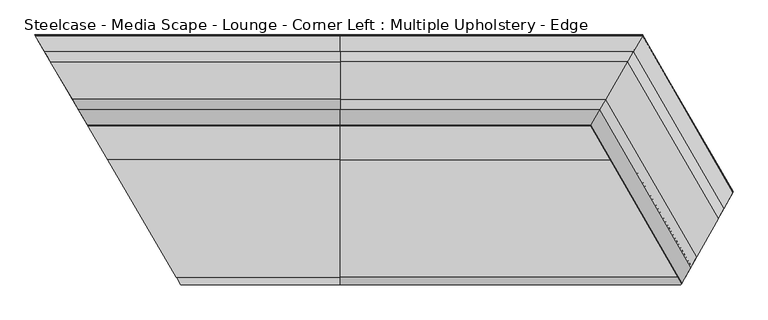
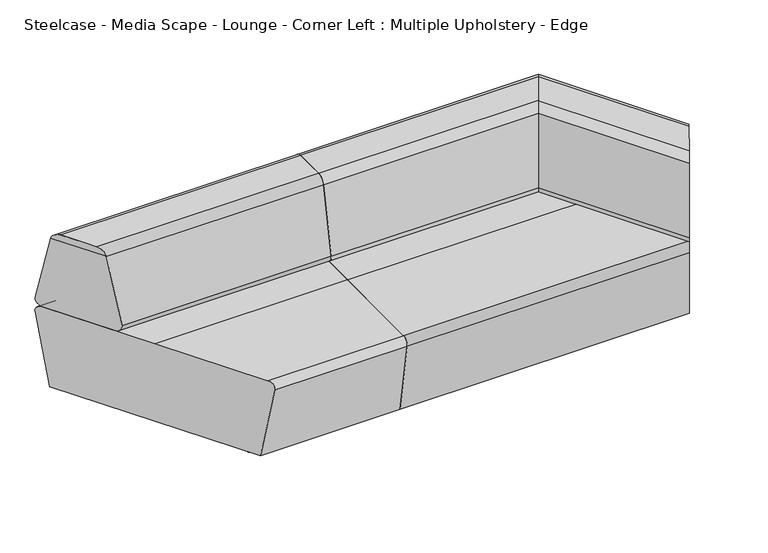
"""IFC4 building model written with IfcOpenShell, lengths in millimetres: furniture geometry, Steelcase - Media Scape - Lounge - Corner Left : Multiple Upholstery - Edge."""

from ifc_helpers import new_model, si_unit, point, frame, origin, place, context, project, spatial, polyline, circle_curve, ellipse_curve, trimmed, source, transform, mapped, element, save
from ifc_brep_helpers import plane_surface, cylinder_surface, revolved_surface, advanced_brep


def steelcase_media_scape_lounge_corner_left_multiple_upholstery_f64f1bea(model_context):
    return source(origin(), model_context, "Body", "AdvancedBrep", [
        advanced_brep(
        [(532.4537919, 744.8271599, 735.3711206), (532.4537919, 618.8595758, 735.3711206), (532.4537919, 585.4318912, 707.8962134), (532.4537919, 778.2548445, 707.8962134), (-454.5953087, 778.2548445, 707.8962134), (-435.0694828, 744.8271599, 735.3711206), (-341.9632954, 585.4318912, 707.8962134), (-361.4891213, 618.8595758, 735.3711206)],
        [
            (0, 1),
            (1, 2, circle_curve(frame((532.4537919, 618.8595758, 701.2985646), z_axis=(1.0, 0.0, 0.0), x_axis=(0.0, -1.0, 0.0)), 34.0725559)),
            (2, 3),
            (3, 0, circle_curve(frame((532.4537919, 744.8271599, 701.2985646), z_axis=(1.0, 0.0, 0.0), x_axis=(0.0, 1.0, 0.0)), 34.0725559)),
            (3, 4),
            (4, 5, ellipse_curve(frame((-435.0694828, 744.8271599, 701.2985646), z_axis=(0.8634825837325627, 0.5043786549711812, 0.0), x_axis=(-0.5043786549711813, 0.8634825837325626, 0.0)), 39.4594594, 34.0725559)),
            (5, 0),
            (2, 6),
            (6, 4),
            (1, 7),
            (7, 6, ellipse_curve(frame((-361.4891213, 618.8595758, 701.2985646), z_axis=(0.8634825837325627, 0.5043786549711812, 0.0), x_axis=(-0.5043786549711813, 0.8634825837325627, 0.0)), 39.4594594, 34.0725559)),
            (5, 7),
        ],
        [
            plane_surface(frame((532.4537919, 778.8997158, 701.2985646), z_axis=(1.0, 0.0, 0.0), x_axis=(0.0, 0.0, 1.0))),
            cylinder_surface(frame((532.4537919, 744.8271599, 701.2985646), z_axis=(-1.0, 0.0, 0.0), x_axis=(0.0, 1.0, 0.0)), 34.0725559),
            plane_surface(frame((-494.2685786, 778.2548445, 707.8962134), z_axis=(0.0, 0.0, -1.0), x_axis=(1.0, 0.0, 0.0))),
            cylinder_surface(frame((532.4537919, 618.8595758, 701.2985646), z_axis=(-1.0, 0.0, 0.0), x_axis=(0.0, -1.0, 0.0)), 34.0725559),
            plane_surface(frame((-494.2685786, 618.8595758, 735.3711206), z_axis=(0.0, 0.0, 1.0), x_axis=(1.0, 0.0, 0.0))),
            plane_surface(frame((43.2681632, -74.0739223, 831.6576803), z_axis=(-0.8634825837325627, -0.5043786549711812, 0.0), x_axis=(0.0, 0.0, -1.0))),
        ],
        [
            (0, [[1, 2, 3, 4]]),
            (1, [[-4, 5, 6, 7]]),
            (2, [[-3, 8, 9, -5]]),
            (3, [[-2, 10, 11, -8]]),
            (4, [[-1, -7, 12, -10]]),
            (5, [[-6, -9, -11, -12]]),
        ],
    ),
        advanced_brep(
        [(532.4537919, 744.8271599, 735.3711206), (532.4537919, 778.2548445, 707.8962134), (532.4537919, 585.4318912, 707.8962134), (532.4537919, 618.8595758, 735.3711206), (1418.7016149, 618.8595758, 735.3711206), (1491.4260266, 744.8271599, 735.3711206), (1399.4029301, 585.4318912, 707.8962134), (1510.7247114, 778.2548445, 707.8962134)],
        [
            (0, 1, circle_curve(frame((532.4537919, 744.8271599, 701.2985646), z_axis=(-1.0, 0.0, 0.0), x_axis=(0.0, 1.0, 0.0)), 34.0725559)),
            (1, 2),
            (2, 3, circle_curve(frame((532.4537919, 618.8595758, 701.2985646), z_axis=(-1.0, 0.0, 0.0), x_axis=(0.0, -1.0, 0.0)), 34.0725559)),
            (3, 0),
            (3, 4),
            (4, 5),
            (5, 0),
            (2, 6),
            (6, 4, ellipse_curve(frame((1418.7016149, 618.8595758, 701.2985646), z_axis=(-0.8660343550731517, 0.4999844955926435, 0.0), x_axis=(0.4999844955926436, 0.8660343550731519, 0.0)), 39.343192, 34.0725559)),
            (1, 7),
            (7, 6),
            (5, 7, ellipse_curve(frame((1491.4260266, 744.8271599, 701.2985646), z_axis=(-0.8660343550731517, 0.4999844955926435, 0.0), x_axis=(0.4999844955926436, 0.8660343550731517, 0.0)), 39.343192, 34.0725559)),
        ],
        [
            plane_surface(frame((532.4537919, 567.2050656, 735.3711206), z_axis=(-1.0, 0.0, 0.0), x_axis=(0.0, 1.0, 0.0))),
            plane_surface(frame((1559.1761623, 744.8271599, 735.3711206), z_axis=(0.0, 0.0, 1.0), x_axis=(-1.0, 0.0, 0.0))),
            cylinder_surface(frame((532.4537919, 618.8595758, 701.2985646), z_axis=(1.0, 0.0, 0.0), x_axis=(0.0, -1.0, 0.0)), 34.0725559),
            plane_surface(frame((1559.1761623, 585.4318912, 707.8962134), z_axis=(0.0, 0.0, -1.0), x_axis=(-1.0, 0.0, 0.0))),
            cylinder_surface(frame((532.4537919, 744.8271599, 701.2985646), z_axis=(1.0, 0.0, 0.0), x_axis=(0.0, 1.0, 0.0)), 34.0725559),
            plane_surface(frame((1578.9048197, 896.3511388, 783.4745435), z_axis=(0.8660343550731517, -0.4999844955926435, 0.0), x_axis=(0.0, 0.0, -1.0))),
        ],
        [
            (0, [[1, 2, 3, 4]]),
            (1, [[-4, 5, 6, 7]]),
            (2, [[-3, 8, 9, -5]]),
            (3, [[-2, 10, 11, -8]]),
            (4, [[-1, -7, 12, -10]]),
            (5, [[-6, -9, -11, -12]]),
        ],
    ),
        advanced_brep(
        [(532.4537919, 744.618392, 735.1171206), (532.4537919, 778.0460766, 707.6422134), (532.4537919, 831.9045354, 434.7626426), (532.4537919, 806.9852663, 404.4443065), (532.4537919, 556.7014693, 404.4443065), (532.4537919, 531.7822003, 434.7626426), (532.4537919, 585.640659, 707.6422134), (532.4537919, 619.0683436, 735.1171206), (1418.8221421, 619.0683436, 735.1171206), (1491.3054994, 744.618392, 735.1171206), (1399.5234573, 585.640659, 707.6422134), (1368.4295472, 531.7822003, 434.7626426), (1382.8160991, 556.7014693, 404.4443065), (1527.3115423, 806.9852663, 404.4443065), (1541.6980942, 831.9045354, 434.7626426), (1510.6041842, 778.0460766, 707.6422134)],
        [
            (0, 1, circle_curve(frame((532.4537919, 744.618392, 701.0445646), z_axis=(-1.0, 0.0, 0.0), x_axis=(0.0, 1.0, 0.0)), 34.0725559)),
            (1, 2),
            (2, 3, circle_curve(frame((532.4537919, 806.9852663, 429.8443065), z_axis=(-1.0, 0.0, 0.0), x_axis=(0.0, 1.0, 0.0)), 25.4)),
            (3, 4),
            (4, 5, circle_curve(frame((532.4537919, 556.7014693, 429.8443065), z_axis=(-1.0, 0.0, 0.0), x_axis=(0.0, -1.0, 0.0)), 25.4)),
            (5, 6),
            (6, 7, circle_curve(frame((532.4537919, 619.0683436, 701.0445646), z_axis=(-1.0, 0.0, 0.0), x_axis=(0.0, -1.0, 0.0)), 34.0725559)),
            (7, 0),
            (7, 8),
            (8, 9),
            (9, 0),
            (6, 10),
            (10, 8, ellipse_curve(frame((1418.8221421, 619.0683436, 701.0445646), z_axis=(-0.8660343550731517, 0.4999844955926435, 0.0), x_axis=(0.4999844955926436, 0.8660343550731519, 0.0)), 39.343192, 34.0725559)),
            (5, 11),
            (11, 10),
            (4, 12),
            (12, 11, ellipse_curve(frame((1382.8160991, 556.7014693, 429.8443065), z_axis=(-0.8660343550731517, 0.4999844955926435, 0.0), x_axis=(0.4999844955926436, 0.8660343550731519, 0.0)), 29.3290905, 25.4)),
            (3, 13),
            (13, 12),
            (2, 14),
            (14, 13, ellipse_curve(frame((1527.3115423, 806.9852663, 429.8443065), z_axis=(-0.8660343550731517, 0.4999844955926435, 0.0), x_axis=(0.4999844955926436, 0.8660343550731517, 0.0)), 29.3290905, 25.4)),
            (1, 15),
            (15, 14),
            (9, 15, ellipse_curve(frame((1491.3054994, 744.618392, 701.0445646), z_axis=(-0.8660343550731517, 0.4999844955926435, 0.0), x_axis=(0.4999844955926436, 0.8660343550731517, 0.0)), 39.343192, 34.0725559)),
        ],
        [
            plane_surface(frame((532.4537919, 567.2050656, 735.1171206), z_axis=(-1.0, 0.0, 0.0), x_axis=(0.0, 1.0, 0.0))),
            plane_surface(frame((1559.1761623, 744.618392, 735.1171206), z_axis=(0.0, 0.0, 1.0), x_axis=(-1.0, 0.0, 0.0))),
            cylinder_surface(frame((532.4537919, 619.0683436, 701.0445646), z_axis=(1.0, 0.0, 0.0), x_axis=(0.0, -1.0, 0.0)), 34.0725559),
            plane_surface(frame((1559.1761623, 585.640659, 707.6422134), z_axis=(0.0, -0.9810735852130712, 0.19363527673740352), x_axis=(-1.0, 0.0, 0.0))),
            cylinder_surface(frame((532.4537919, 556.7014693, 429.8443065), z_axis=(1.0, 0.0, 0.0), x_axis=(0.0, -1.0, 0.0)), 25.4),
            plane_surface(frame((1559.1761623, 556.7014693, 404.4443065), z_axis=(0.0, 0.0, -1.0), x_axis=(-1.0, 0.0, 0.0))),
            cylinder_surface(frame((532.4537919, 806.9852663, 429.8443065), z_axis=(1.0, 0.0, 0.0), x_axis=(0.0, 1.0, 0.0)), 25.4),
            plane_surface(frame((1559.1761623, 831.9045354, 434.7626426), z_axis=(0.0, 0.9810735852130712, 0.19363527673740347), x_axis=(-1.0, 0.0, 0.0))),
            cylinder_surface(frame((532.4537919, 744.618392, 701.0445646), z_axis=(1.0, 0.0, 0.0), x_axis=(0.0, 1.0, 0.0)), 34.0725559),
            plane_surface(frame((1578.9048197, 896.3511388, 783.4745435), z_axis=(0.8660343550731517, -0.4999844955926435, 0.0), x_axis=(0.0, 0.0, -1.0))),
        ],
        [
            (0, [[1, 2, 3, 4, 5, 6, 7, 8]]),
            (1, [[-8, 9, 10, 11]]),
            (2, [[-7, 12, 13, -9]]),
            (3, [[-6, 14, 15, -12]]),
            (4, [[-5, 16, 17, -14]]),
            (5, [[-4, 18, 19, -16]]),
            (6, [[-3, 20, 21, -18]]),
            (7, [[-2, 22, 23, -20]]),
            (8, [[-1, -11, 24, -22]]),
            (9, [[-10, -13, -15, -17, -19, -21, -23, -24]]),
        ],
    ),
        advanced_brep(
        [(1491.4185476, 744.8142053, 735.3711206), (1418.6659522, 618.7978036, 735.3711206), (1722.1024862, 92.4589595, 735.3711206), (1793.9105179, 220.1137947, 735.3711206), (1399.3597883, 585.3571644, 707.8962134), (1703.0469788, 58.5835335, 707.8962134), (1510.7247114, 778.2548445, 707.8962134), (1812.9660253, 253.9892207, 707.8962134)],
        [
            (0, 1),
            (1, 2),
            (2, 3),
            (3, 0),
            (1, 4, ellipse_curve(frame((1418.6659522, 618.7978036, 701.2985646), z_axis=(0.8660343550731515, -0.499984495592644, 0.0), x_axis=(-0.49998449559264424, -0.8660343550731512, 0.0)), 39.3584391, 34.0725559)),
            (4, 5),
            (5, 2, ellipse_curve(frame((1722.1024862, 92.4589595, 701.2985646), z_axis=(-0.8715691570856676, 0.4902725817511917, 0.0), x_axis=(-0.4902725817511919, -0.8715691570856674, 0.0)), 39.6169766, 34.0725559)),
            (4, 6),
            (6, 7),
            (7, 5),
            (6, 0, ellipse_curve(frame((1491.4185476, 744.8142053, 701.2985646), z_axis=(0.8660343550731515, -0.499984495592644, 0.0), x_axis=(-0.4999844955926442, -0.8660343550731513, 0.0)), 39.3584391, 34.0725559)),
            (3, 7, ellipse_curve(frame((1793.9105179, 220.1137947, 701.2985646), z_axis=(-0.8715691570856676, 0.4902725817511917, 0.0), x_axis=(-0.49027258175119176, -0.8715691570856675, 0.0)), 39.6169766, 34.0725559)),
        ],
        [
            plane_surface(frame((1868.1598018, 91.3215174, 735.3711206), z_axis=(0.0, 0.0, 1.0000000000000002), x_axis=(-0.4994501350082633, 0.866342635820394, 0.0))),
            cylinder_surface(frame((1327.7035763, 776.5804908, 701.2985646), z_axis=(0.4994501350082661, -0.8663426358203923, 0.0), x_axis=(-0.8663426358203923, -0.4994501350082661, 0.0)), 34.0725559),
            plane_surface(frame((1730.0688845, 11.7115289, 707.8962134), z_axis=(0.0, 0.0, -1.0000000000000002), x_axis=(-0.4994501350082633, 0.866342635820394, 0.0))),
            cylinder_surface(frame((1436.8346652, 839.4950177, 701.2985646), z_axis=(0.49945013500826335, -0.8663426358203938, 0.0), x_axis=(0.8663426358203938, 0.49945013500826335, 0.0)), 34.0725559),
            plane_surface(frame((1312.2130898, 434.4084138, 783.4745435), z_axis=(-0.8660343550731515, 0.499984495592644, 0.0), x_axis=(0.0, 0.0, -1.0))),
            plane_surface(frame((1844.1308819, 309.391723, 975.8102777), z_axis=(0.8715691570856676, -0.4902725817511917, 0.0), x_axis=(0.0, 0.0, -1.0))),
        ],
        [
            (0, [[1, 2, 3, 4]]),
            (1, [[5, 6, 7, -2]]),
            (2, [[8, 9, 10, -6]]),
            (3, [[11, -4, 12, -9]]),
            (4, [[-1, -11, -8, -5]]),
            (5, [[-3, -7, -10, -12]]),
        ],
    ),
        advanced_brep(
        [(1722.2214947, 92.6705237, 735.1171206), (1793.7915094, 219.9022306, 735.1171206), (1491.2979737, 744.6053565, 735.1171206), (1418.7865261, 619.0066524, 735.1171206), (1703.1659873, 58.7950977, 707.6422134), (1399.4803623, 585.5660131, 707.6422134), (1672.4638829, 4.2152411, 434.7626426), (1368.3744021, 531.686682, 434.7626426), (1686.6691539, 29.468287, 404.4443065), (1382.7665293, 556.6156083, 404.4443065), (1829.3438503, 283.1044672, 404.4443065), (1527.3179704, 806.9964005, 404.4443065), (1843.5491212, 308.3575131, 434.7626426), (1541.7100977, 831.9253268, 434.7626426), (1812.8470169, 253.7776565, 707.6422134), (1510.6041375, 778.0459957, 707.6422134)],
        [
            (0, 1),
            (1, 2),
            (2, 3),
            (3, 0),
            (4, 0, ellipse_curve(frame((1722.2214947, 92.6705237, 701.0445646), z_axis=(-0.8715691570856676, 0.4902725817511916, 0.0), x_axis=(-0.4902725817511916, -0.8715691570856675, 0.0)), 39.6169766, 34.0725559)),
            (3, 5, ellipse_curve(frame((1418.7865261, 619.0066524, 701.0445646), z_axis=(0.8660343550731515, -0.499984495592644, 0.0), x_axis=(-0.49998449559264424, -0.8660343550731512, 0.0)), 39.3584391, 34.0725559)),
            (5, 4),
            (6, 4),
            (5, 7),
            (7, 6),
            (8, 6, ellipse_curve(frame((1686.6691539, 29.468287, 429.8443065), z_axis=(-0.8715691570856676, 0.4902725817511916, 0.0), x_axis=(-0.4902725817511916, -0.8715691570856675, 0.0)), 29.5331882, 25.4)),
            (7, 9, ellipse_curve(frame((1382.7665293, 556.6156083, 429.8443065), z_axis=(0.8660343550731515, -0.499984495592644, 0.0), x_axis=(-0.49998449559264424, -0.8660343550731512, 0.0)), 29.3404568, 25.4)),
            (9, 8),
            (10, 8),
            (9, 11),
            (11, 10),
            (12, 10, ellipse_curve(frame((1829.3438503, 283.1044672, 429.8443065), z_axis=(-0.8715691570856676, 0.4902725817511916, 0.0), x_axis=(-0.49027258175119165, -0.8715691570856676, 0.0)), 29.5331882, 25.4)),
            (11, 13, ellipse_curve(frame((1527.3179704, 806.9964005, 429.8443065), z_axis=(0.8660343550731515, -0.499984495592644, 0.0), x_axis=(-0.4999844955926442, -0.8660343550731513, 0.0)), 29.3404568, 25.4)),
            (13, 12),
            (14, 12),
            (13, 15),
            (15, 14),
            (1, 14, ellipse_curve(frame((1793.7915094, 219.9022306, 701.0445646), z_axis=(-0.8715691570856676, 0.4902725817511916, 0.0), x_axis=(-0.49027258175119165, -0.8715691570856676, 0.0)), 39.6169766, 34.0725559)),
            (15, 2, ellipse_curve(frame((1491.2979737, 744.6053565, 701.0445646), z_axis=(0.8660343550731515, -0.499984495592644, 0.0), x_axis=(-0.4999844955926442, -0.8660343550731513, 0.0)), 39.3584391, 34.0725559)),
        ],
        [
            plane_surface(frame((1867.9789373, 91.2172483, 735.1171206), z_axis=(0.0, 0.0, 1.0), x_axis=(-0.4994501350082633, 0.8663426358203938, 0.0))),
            cylinder_surface(frame((1327.8844408, 776.6847599, 701.0445646), z_axis=(0.4994501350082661, -0.8663426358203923, 0.0), x_axis=(-0.8663426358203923, -0.4994501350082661, 0.0)), 34.0725559),
            plane_surface(frame((1730.249749, 11.815798, 707.6422134), z_axis=(-0.849945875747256, -0.4899973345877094, 0.19363527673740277), x_axis=(-0.4994501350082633, 0.8663426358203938, 0.0))),
            cylinder_surface(frame((1273.8533586, 745.5356162, 429.8443065), z_axis=(0.4994501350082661, -0.8663426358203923, 0.0), x_axis=(-0.8663426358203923, -0.4994501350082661, 0.0)), 25.4),
            plane_surface(frame((1705.1784952, -2.6378841, 404.4443065), z_axis=(0.0, 0.0, -1.0000000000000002), x_axis=(-0.4994501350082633, 0.866342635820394, 0.0))),
            cylinder_surface(frame((1490.6848829, 870.5398923, 429.8443065), z_axis=(0.49945013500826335, -0.8663426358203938, 0.0), x_axis=(0.8663426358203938, 0.49945013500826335, 0.0)), 25.4),
            plane_surface(frame((1943.5986448, 134.8123243, 434.7626426), z_axis=(0.8499458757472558, 0.48999733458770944, 0.193635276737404), x_axis=(-0.49945013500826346, 0.8663426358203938, 0.0))),
            cylinder_surface(frame((1436.6538007, 839.3907486, 701.0445646), z_axis=(0.49945013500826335, -0.8663426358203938, 0.0), x_axis=(0.8663426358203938, 0.49945013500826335, 0.0)), 34.0725559),
            plane_surface(frame((1844.1308819, 309.391723, 783.4745435), z_axis=(0.8715691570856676, -0.4902725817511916, 0.0), x_axis=(0.0, 0.0, -1.0))),
            plane_surface(frame((1312.2130898, 434.4084138, 783.4745435), z_axis=(-0.8660343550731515, 0.499984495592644, 0.0), x_axis=(0.0, 0.0, -1.0))),
        ],
        [
            (0, [[1, 2, 3, 4]]),
            (1, [[5, -4, 6, 7]]),
            (2, [[8, -7, 9, 10]]),
            (3, [[11, -10, 12, 13]]),
            (4, [[14, -13, 15, 16]]),
            (5, [[17, -16, 18, 19]]),
            (6, [[20, -19, 21, 22]]),
            (7, [[23, -22, 24, -2]]),
            (8, [[-1, -5, -8, -11, -14, -17, -20, -23]]),
            (9, [[-3, -24, -21, -18, -15, -12, -9, -6]]),
        ],
    ),
        advanced_brep(
        [(532.4537919, 416.9525328, 404.4443065), (532.4537919, 808.4584998, 404.4443065), (532.4537919, 833.4999769, 374.7917281), (532.4537919, 782.5280351, 74.6414242), (532.4537919, 416.9525328, 74.6414242), (532.4537919, 51.3770305, 74.6414242), (532.4537919, 0.4050887, 374.7917281), (532.4537919, 25.4465658, 404.4443065), (1782.1216274, 416.9525328, 404.4443065), (1556.4168081, 808.4584998, 404.4443065), (1541.9802923, 833.4999769, 374.7917281), (1571.3658289, 782.5280351, 74.6414242), (1782.1216274, 416.9525328, 74.6414242), (1844.1308819, 309.391723, 74.6414242), (1698.9931974, 51.3770305, 74.6414242), (1670.3206069, 0.4050887, 374.7917281), (1684.4068668, 25.4465658, 404.4443065), (1844.1308819, 309.391723, 404.4443065)],
        [
            (0, 1),
            (1, 2, circle_curve(frame((532.4537919, 808.4584998, 379.0443065), z_axis=(-1.0, 0.0, 0.0), x_axis=(0.0, 1.0, 0.0)), 25.4)),
            (2, 3),
            (3, 4),
            (4, 5),
            (5, 6),
            (6, 7, circle_curve(frame((532.4537919, 25.4465658, 379.0443065), z_axis=(-1.0, 0.0, 0.0), x_axis=(0.0, -1.0, 0.0)), 25.4)),
            (7, 0),
            (0, 8),
            (8, 9),
            (9, 1),
            (9, 10, ellipse_curve(frame((1556.4168081, 808.4584998, 379.0443065), z_axis=(-0.8663426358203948, -0.4994501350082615, 0.0), x_axis=(-0.4994501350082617, 0.866342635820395, 0.0)), 29.318654, 25.4)),
            (10, 2),
            (10, 11),
            (11, 3),
            (11, 12),
            (12, 4),
            (12, 13),
            (13, 14),
            (14, 5),
            (14, 15),
            (15, 6),
            (15, 16, ellipse_curve(frame((1684.4068668, 25.4465658, 379.0443065), z_axis=(-0.8715691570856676, 0.4902725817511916, 0.0), x_axis=(-0.4902725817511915, -0.8715691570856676, 0.0)), 29.1428394, 25.4)),
            (16, 7),
            (16, 17),
            (17, 8),
            (13, 17),
        ],
        [
            plane_surface(frame((532.4537919, 891.4773142, 404.4443065), z_axis=(-1.0, 0.0, 0.0), x_axis=(0.0, 1.0, 0.0))),
            plane_surface(frame((532.4537919, 416.9525328, 404.4443065), z_axis=(0.0, 0.0, 1.0), x_axis=(1.0, 0.0, 0.0))),
            cylinder_surface(frame((1864.4893496, 808.4584998, 379.0443065), z_axis=(-1.0, 0.0, 0.0), x_axis=(0.0, 1.0, 0.0)), 25.4),
            plane_surface(frame((532.4537919, 833.4999769, 374.7917281), z_axis=(0.0, 0.9858849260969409, -0.1674243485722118), x_axis=(1.0, 0.0, 0.0))),
            plane_surface(frame((532.4537919, 782.5280351, 74.6414242), z_axis=(0.0, 0.0, -1.0), x_axis=(1.0, 0.0, 0.0))),
            plane_surface(frame((532.4537919, 416.9525328, 74.6414242), z_axis=(0.0, 0.0, -1.0), x_axis=(1.0, 0.0, 0.0))),
            plane_surface(frame((532.4537919, 51.3770305, 74.6414242), z_axis=(0.0, -0.9858849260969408, -0.16742434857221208), x_axis=(1.0, 0.0, 0.0))),
            cylinder_surface(frame((1864.4893496, 25.4465658, 379.0443065), z_axis=(-1.0, 0.0, 0.0), x_axis=(0.0, -1.0, 0.0)), 25.4),
            plane_surface(frame((532.4537919, 25.4465658, 404.4443065), z_axis=(0.0, 0.0, 1.0), x_axis=(1.0, 0.0, 0.0))),
            plane_surface(frame((1844.1308819, 309.391723, 783.4745435), z_axis=(0.8715691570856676, -0.4902725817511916, 0.0), x_axis=(0.0, 0.0, -1.0))),
            plane_surface(frame((1512.8100786, 884.0984212, 783.4745435), z_axis=(0.8663426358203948, 0.4994501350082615, 0.0), x_axis=(0.0, 0.0, -1.0))),
        ],
        [
            (0, [[1, 2, 3, 4, 5, 6, 7, 8]]),
            (1, [[-1, 9, 10, 11]]),
            (2, [[-2, -11, 12, 13]]),
            (3, [[-3, -13, 14, 15]]),
            (4, [[-4, -15, 16, 17]]),
            (5, [[-5, -17, 18, 19, 20]]),
            (6, [[-6, -20, 21, 22]]),
            (7, [[-7, -22, 23, 24]]),
            (8, [[-8, -24, 25, 26, -9]]),
            (9, [[27, -25, -23, -21, -19]]),
            (10, [[-27, -18, -16, -14, -12, -10, -26]]),
        ],
    ),
        advanced_brep(
        [(532.4537919, 744.618392, 735.1171206), (532.4537919, 619.0683436, 735.1171206), (532.4537919, 585.640659, 707.6422134), (532.4537919, 531.7822003, 434.7626426), (532.4537919, 556.7014693, 404.4443065), (532.4537919, 806.9852663, 404.4443065), (532.4537919, 831.9045354, 434.7626426), (532.4537919, 778.0460766, 707.6422134), (-454.4733629, 778.0460766, 707.6422134), (-434.947537, 744.618392, 735.1171206), (-485.9332412, 831.9045354, 434.7626426), (-471.3773629, 806.9852663, 404.4443065), (-325.1812412, 556.7014693, 404.4443065), (-310.6253629, 531.7822003, 434.7626426), (-342.0852412, 585.640659, 707.6422134), (-361.6110671, 619.0683436, 735.1171206)],
        [
            (0, 1),
            (1, 2, circle_curve(frame((532.4537919, 619.0683436, 701.0445646), z_axis=(1.0, 0.0, 0.0), x_axis=(0.0, -1.0, 0.0)), 34.0725559)),
            (2, 3),
            (3, 4, circle_curve(frame((532.4537919, 556.7014693, 429.8443065), z_axis=(1.0, 0.0, 0.0), x_axis=(0.0, -1.0, 0.0)), 25.4)),
            (4, 5),
            (5, 6, circle_curve(frame((532.4537919, 806.9852663, 429.8443065), z_axis=(1.0, 0.0, 0.0), x_axis=(0.0, 1.0, 0.0)), 25.4)),
            (6, 7),
            (7, 0, circle_curve(frame((532.4537919, 744.618392, 701.0445646), z_axis=(1.0, 0.0, 0.0), x_axis=(0.0, 1.0, 0.0)), 34.0725559)),
            (7, 8),
            (8, 9, ellipse_curve(frame((-434.947537, 744.618392, 701.0445646), z_axis=(0.8634825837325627, 0.5043786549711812, 0.0), x_axis=(-0.5043786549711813, 0.8634825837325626, 0.0)), 39.4594594, 34.0725559)),
            (9, 0),
            (6, 10),
            (10, 8),
            (5, 11),
            (11, 10, ellipse_curve(frame((-471.3773629, 806.9852663, 429.8443065), z_axis=(0.8634825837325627, 0.5043786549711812, 0.0), x_axis=(-0.5043786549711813, 0.8634825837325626, 0.0)), 29.4157641, 25.4)),
            (4, 12),
            (12, 11),
            (3, 13),
            (13, 12, ellipse_curve(frame((-325.1812412, 556.7014693, 429.8443065), z_axis=(0.8634825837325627, 0.5043786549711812, 0.0), x_axis=(-0.5043786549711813, 0.8634825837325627, 0.0)), 29.4157641, 25.4)),
            (2, 14),
            (14, 13),
            (1, 15),
            (15, 14, ellipse_curve(frame((-361.6110671, 619.0683436, 701.0445646), z_axis=(0.8634825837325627, 0.5043786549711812, 0.0), x_axis=(-0.5043786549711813, 0.8634825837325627, 0.0)), 39.4594594, 34.0725559)),
            (9, 15),
        ],
        [
            plane_surface(frame((532.4537919, 778.690948, 701.0445646), z_axis=(1.0, 0.0, 0.0), x_axis=(0.0, 0.0, 1.0))),
            cylinder_surface(frame((532.4537919, 744.618392, 701.0445646), z_axis=(-1.0, 0.0, 0.0), x_axis=(0.0, 1.0, 0.0)), 34.0725559),
            plane_surface(frame((-494.2685786, 778.0460766, 707.6422134), z_axis=(0.0, 0.9810735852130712, 0.19363527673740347), x_axis=(1.0, 0.0, 0.0))),
            cylinder_surface(frame((532.4537919, 806.9852663, 429.8443065), z_axis=(-1.0, 0.0, 0.0), x_axis=(0.0, 1.0, 0.0)), 25.4),
            plane_surface(frame((-494.2685786, 806.9852663, 404.4443065), z_axis=(0.0, 0.0, -1.0), x_axis=(1.0, 0.0, 0.0))),
            cylinder_surface(frame((532.4537919, 556.7014693, 429.8443065), z_axis=(-1.0, 0.0, 0.0), x_axis=(0.0, -1.0, 0.0)), 25.4),
            plane_surface(frame((-494.2685786, 531.7822003, 434.7626426), z_axis=(0.0, -0.9810735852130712, 0.19363527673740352), x_axis=(1.0, 0.0, 0.0))),
            cylinder_surface(frame((532.4537919, 619.0683436, 701.0445646), z_axis=(-1.0, 0.0, 0.0), x_axis=(0.0, -1.0, 0.0)), 34.0725559),
            plane_surface(frame((-494.2685786, 619.0683436, 735.1171206), z_axis=(0.0, 0.0, 1.0), x_axis=(1.0, 0.0, 0.0))),
            plane_surface(frame((43.2681632, -74.0739223, 775.7777302), z_axis=(-0.8634825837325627, -0.5043786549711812, 0.0), x_axis=(0.0, 0.0, -1.0))),
        ],
        [
            (0, [[1, 2, 3, 4, 5, 6, 7, 8]]),
            (1, [[-8, 9, 10, 11]]),
            (2, [[-7, 12, 13, -9]]),
            (3, [[-6, 14, 15, -12]]),
            (4, [[-5, 16, 17, -14]]),
            (5, [[-4, 18, 19, -16]]),
            (6, [[-3, 20, 21, -18]]),
            (7, [[-2, 22, 23, -20]]),
            (8, [[-1, -11, 24, -22]]),
            (9, [[-10, -13, -15, -17, -19, -21, -23, -24]]),
        ],
    ),
        advanced_brep(
        [(532.4537919, 416.9525328, 404.4443065), (532.4537919, 25.4465658, 404.4443065), (532.4537919, 0.4050887, 374.7917281), (532.4537919, 51.3770305, 74.6414242), (532.4537919, 416.9525328, 74.6414242), (532.4537919, 782.5280351, 74.6414242), (532.4537919, 833.4999769, 374.7917281), (532.4537919, 808.4584998, 404.4443065), (-243.5508969, 416.9525328, 404.4443065), (-14.8638836, 25.4465658, 404.4443065), (-0.236621, 0.4050887, 374.7917281), (-30.0104229, 51.3770305, 74.6414242), (-243.5508969, 416.9525328, 74.6414242), (-457.0913708, 782.5280351, 74.6414242), (-486.8651727, 833.4999769, 374.7917281), (-472.2379101, 808.4584998, 404.4443065)],
        [
            (0, 1),
            (1, 2, circle_curve(frame((532.4537919, 25.4465658, 379.0443065), z_axis=(1.0, 0.0, 0.0), x_axis=(0.0, -1.0, 0.0)), 25.4)),
            (2, 3),
            (3, 4),
            (4, 5),
            (5, 6),
            (6, 7, circle_curve(frame((532.4537919, 808.4584998, 379.0443065), z_axis=(1.0, 0.0, 0.0), x_axis=(0.0, 1.0, 0.0)), 25.4)),
            (7, 0),
            (0, 8),
            (8, 9),
            (9, 1),
            (9, 10, ellipse_curve(frame((-14.8638836, 25.4465658, 379.0443065), z_axis=(0.8634825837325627, 0.5043786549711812, 0.0), x_axis=(0.5043786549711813, -0.8634825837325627, 0.0)), 29.4157641, 25.4)),
            (10, 2),
            (10, 11),
            (11, 3),
            (11, 12),
            (12, 4),
            (12, 13),
            (13, 5),
            (13, 14),
            (14, 6),
            (14, 15, ellipse_curve(frame((-472.2379101, 808.4584998, 379.0443065), z_axis=(0.8634825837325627, 0.5043786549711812, 0.0), x_axis=(0.5043786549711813, -0.8634825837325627, 0.0)), 29.4157641, 25.4)),
            (15, 7),
            (15, 8),
        ],
        [
            plane_surface(frame((532.4537919, -57.5722485, 404.4443065), z_axis=(1.0, 0.0, 0.0), x_axis=(0.0, -1.0, 0.0))),
            plane_surface(frame((532.4537919, 416.9525328, 404.4443065), z_axis=(0.0, 0.0, 1.0), x_axis=(-1.0, 0.0, 0.0))),
            cylinder_surface(frame((-497.7585178, 25.4465658, 379.0443065), z_axis=(1.0, 0.0, 0.0), x_axis=(0.0, -1.0, 0.0)), 25.4),
            plane_surface(frame((532.4537919, 0.4050887, 374.7917281), z_axis=(0.0, -0.9858849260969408, -0.16742434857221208), x_axis=(-1.0, 0.0, 0.0))),
            plane_surface(frame((532.4537919, 51.3770305, 74.6414242), z_axis=(0.0, 0.0, -1.0), x_axis=(-1.0, 0.0, 0.0))),
            plane_surface(frame((532.4537919, 416.9525328, 74.6414242), z_axis=(0.0, 0.0, -1.0), x_axis=(-1.0, 0.0, 0.0))),
            plane_surface(frame((532.4537919, 782.5280351, 74.6414242), z_axis=(0.0, 0.9858849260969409, -0.1674243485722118), x_axis=(-1.0, 0.0, 0.0))),
            cylinder_surface(frame((-497.7585178, 808.4584998, 379.0443065), z_axis=(1.0, 0.0, 0.0), x_axis=(0.0, 1.0, 0.0)), 25.4),
            plane_surface(frame((532.4537919, 808.4584998, 404.4443065), z_axis=(0.0, 0.0, 1.0), x_axis=(-1.0, 0.0, 0.0))),
            plane_surface(frame((43.2681632, -74.0739223, 775.7777302), z_axis=(-0.8634825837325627, -0.5043786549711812, 0.0), x_axis=(0.0, 0.0, -1.0))),
        ],
        [
            (0, [[1, 2, 3, 4, 5, 6, 7, 8]]),
            (1, [[-1, 9, 10, 11]]),
            (2, [[-2, -11, 12, 13]]),
            (3, [[-3, -13, 14, 15]]),
            (4, [[-4, -15, 16, 17]]),
            (5, [[-5, -17, 18, 19]]),
            (6, [[-6, -19, 20, 21]]),
            (7, [[-7, -21, 22, 23]]),
            (8, [[-8, -23, 24, -9]]),
            (9, [[-10, -24, -22, -20, -18, -16, -14, -12]]),
        ],
    ),
        advanced_brep(
        [(21.7959658, 197.2230961, 74.1561731), (45.5828859, 197.2230961, 74.1561731), (-1.9909544, 197.2230961, 74.1561731), (-4.2576765, 197.2230961, 0.0), (47.849608, 197.2230961, 0.0), (21.7959658, 197.2230961, 0.0), (-4.2576765, 197.2230961, 6.3788302), (47.849608, 197.2230961, 6.3788302), (12.2709658, 197.2230961, 6.3788302), (31.3209658, 197.2230961, 6.3788302), (12.2709658, 197.2230961, 17.057519), (31.3209658, 197.2230961, 17.057519), (0.8408495, 197.2230961, 17.057519), (42.751082, 197.2230961, 17.057519)],
        [
            (0, 1),
            (1, 2, circle_curve(frame((21.7959658, 197.2230961, 74.1561731), z_axis=(0.0, 0.0, 1.0), x_axis=(1.0, 0.0, 0.0)), 23.7869202)),
            (2, 0),
            (2, 1, circle_curve(frame((21.7959658, 197.2230961, 74.1561731), z_axis=(0.0, 0.0, 1.0), x_axis=(1.0, 0.0, 0.0)), 23.7869202)),
            (3, 4, circle_curve(frame((21.7959658, 197.2230961, 0.0), z_axis=(0.0, 0.0, -1.0), x_axis=(1.0, 0.0, 0.0)), 26.0536423)),
            (4, 5),
            (5, 3),
            (4, 3, circle_curve(frame((21.7959658, 197.2230961, 0.0), z_axis=(0.0, 0.0, -1.0), x_axis=(1.0, 0.0, 0.0)), 26.0536423)),
            (3, 6, circle_curve(frame((-4.2576765, 197.2230961, 3.1894151), z_axis=(0.0, 1.0, 0.0), x_axis=(-1.0, 0.0, 0.0)), 3.1894151)),
            (6, 7, circle_curve(frame((21.7959658, 197.2230961, 6.3788302), z_axis=(0.0, 0.0, -1.0), x_axis=(1.0, 0.0, 0.0)), 26.0536423)),
            (7, 4, circle_curve(frame((47.849608, 197.2230961, 3.1894151), z_axis=(0.0, 1.0, 0.0), x_axis=(1.0, 0.0, 0.0)), 3.1894151)),
            (7, 6, circle_curve(frame((21.7959658, 197.2230961, 6.3788302), z_axis=(0.0, 0.0, -1.0), x_axis=(1.0, 0.0, 0.0)), 26.0536423)),
            (6, 8),
            (8, 9, circle_curve(frame((21.7959658, 197.2230961, 6.3788302), z_axis=(0.0, 0.0, -1.0), x_axis=(1.0, 0.0, 0.0)), 9.525)),
            (9, 7),
            (9, 8, circle_curve(frame((21.7959658, 197.2230961, 6.3788302), z_axis=(0.0, 0.0, -1.0), x_axis=(1.0, 0.0, 0.0)), 9.525)),
            (8, 10),
            (10, 11, circle_curve(frame((21.7959658, 197.2230961, 17.057519), z_axis=(0.0, 0.0, -1.0), x_axis=(1.0, 0.0, 0.0)), 9.525)),
            (11, 9),
            (11, 10, circle_curve(frame((21.7959658, 197.2230961, 17.057519), z_axis=(0.0, 0.0, -1.0), x_axis=(1.0, 0.0, 0.0)), 9.525)),
            (10, 12),
            (12, 13, circle_curve(frame((21.7959658, 197.2230961, 17.057519), z_axis=(0.0, 0.0, -1.0), x_axis=(1.0, 0.0, 0.0)), 20.9551163)),
            (13, 11),
            (13, 12, circle_curve(frame((21.7959658, 197.2230961, 17.057519), z_axis=(0.0, 0.0, -1.0), x_axis=(1.0, 0.0, 0.0)), 20.9551163)),
            (1, 13),
            (12, 2),
        ],
        [
            plane_surface(frame((21.7959658, 197.2230961, 74.1561731), z_axis=(0.0, 0.0, 1.0), x_axis=(1.0, 0.0, 0.0))),
            plane_surface(frame((21.7959658, 197.2230961, 0.0), z_axis=(0.0, 0.0, -1.0), x_axis=(1.0, 0.0, 0.0))),
            revolved_surface(trimmed(ellipse_curve(frame((47.849608, 197.2230961, 3.1894151), z_axis=(0.0, -1.0, 0.0), x_axis=(1.0, 0.0, 0.0)), 3.1894151, 3.1894151), [point((47.849608, 197.2230961, 0.0))], [point((47.849608, 197.2230961, 6.3788302))], True, "CARTESIAN"), (21.7959658, 197.2230961, 61.4561731), (0.0, 0.0, 1.0)),
            plane_surface(frame((21.7959658, 197.2230961, 6.3788302), z_axis=(0.0, 0.0, 1.0), x_axis=(1.0, 0.0, 0.0))),
            cylinder_surface(frame((21.7959658, 197.2230961, 61.4561731), z_axis=(0.0, 0.0, 1.0), x_axis=(1.0, 0.0, 0.0)), 9.525),
            plane_surface(frame((21.7959658, 197.2230961, 17.057519), z_axis=(0.0, 0.0, -1.0), x_axis=(1.0, 0.0, 0.0))),
            revolved_surface(polyline([(42.751082, 197.2230961, 17.057519), (45.5828859, 197.2230961, 74.1561731)]), (21.7959658, 197.2230961, 61.4561731), (0.0, 0.0, 1.0)),
        ],
        [
            (0, [[1, 2, 3]]),
            (0, [[-1, -3, 4]]),
            (1, [[5, 6, 7]]),
            (1, [[-6, 8, -7]]),
            (2, [[-5, 9, 10, 11]]),
            (2, [[-8, -11, 12, -9]]),
            (3, [[-10, 13, 14, 15]]),
            (3, [[-12, -15, 16, -13]]),
            (4, [[-14, 17, 18, 19]]),
            (4, [[-16, -19, 20, -17]]),
            (5, [[-18, 21, 22, 23]]),
            (5, [[-20, -23, 24, -21]]),
            (6, [[-2, 25, -22, 26]]),
            (6, [[-4, -26, -24, -25]]),
        ],
    ),
        advanced_brep(
        [(-250.7323456, 674.5792518, 74.1561731), (-226.9454254, 674.5792518, 74.1561731), (-274.5192657, 674.5792518, 74.1561731), (-276.7859878, 674.5792518, 0.0), (-224.6787033, 674.5792518, 0.0), (-250.7323456, 674.5792518, 0.0), (-276.7859878, 674.5792518, 6.3788302), (-224.6787033, 674.5792518, 6.3788302), (-260.2573456, 674.5792518, 6.3788302), (-241.2073456, 674.5792518, 6.3788302), (-260.2573456, 674.5792518, 17.057519), (-241.2073456, 674.5792518, 17.057519), (-271.6874618, 674.5792518, 17.057519), (-229.7772293, 674.5792518, 17.057519)],
        [
            (0, 1),
            (1, 2, circle_curve(frame((-250.7323456, 674.5792518, 74.1561731), z_axis=(0.0, 0.0, 1.0), x_axis=(1.0, 0.0, 0.0)), 23.7869202)),
            (2, 0),
            (2, 1, circle_curve(frame((-250.7323456, 674.5792518, 74.1561731), z_axis=(0.0, 0.0, 1.0), x_axis=(1.0, 0.0, 0.0)), 23.7869202)),
            (3, 4, circle_curve(frame((-250.7323456, 674.5792518, 0.0), z_axis=(0.0, 0.0, -1.0), x_axis=(1.0, 0.0, 0.0)), 26.0536423)),
            (4, 5),
            (5, 3),
            (4, 3, circle_curve(frame((-250.7323456, 674.5792518, 0.0), z_axis=(0.0, 0.0, -1.0), x_axis=(1.0, 0.0, 0.0)), 26.0536423)),
            (3, 6, circle_curve(frame((-276.7859878, 674.5792518, 3.1894151), z_axis=(0.0, 1.0, 0.0), x_axis=(-1.0, 0.0, 0.0)), 3.1894151)),
            (6, 7, circle_curve(frame((-250.7323456, 674.5792518, 6.3788302), z_axis=(0.0, 0.0, -1.0), x_axis=(1.0, 0.0, 0.0)), 26.0536423)),
            (7, 4, circle_curve(frame((-224.6787033, 674.5792518, 3.1894151), z_axis=(0.0, 1.0, 0.0), x_axis=(1.0, 0.0, 0.0)), 3.1894151)),
            (7, 6, circle_curve(frame((-250.7323456, 674.5792518, 6.3788302), z_axis=(0.0, 0.0, -1.0), x_axis=(1.0, 0.0, 0.0)), 26.0536423)),
            (6, 8),
            (8, 9, circle_curve(frame((-250.7323456, 674.5792518, 6.3788302), z_axis=(0.0, 0.0, -1.0), x_axis=(1.0, 0.0, 0.0)), 9.525)),
            (9, 7),
            (9, 8, circle_curve(frame((-250.7323456, 674.5792518, 6.3788302), z_axis=(0.0, 0.0, -1.0), x_axis=(1.0, 0.0, 0.0)), 9.525)),
            (8, 10),
            (10, 11, circle_curve(frame((-250.7323456, 674.5792518, 17.057519), z_axis=(0.0, 0.0, -1.0), x_axis=(1.0, 0.0, 0.0)), 9.525)),
            (11, 9),
            (11, 10, circle_curve(frame((-250.7323456, 674.5792518, 17.057519), z_axis=(0.0, 0.0, -1.0), x_axis=(1.0, 0.0, 0.0)), 9.525)),
            (10, 12),
            (12, 13, circle_curve(frame((-250.7323456, 674.5792518, 17.057519), z_axis=(0.0, 0.0, -1.0), x_axis=(1.0, 0.0, 0.0)), 20.9551163)),
            (13, 11),
            (13, 12, circle_curve(frame((-250.7323456, 674.5792518, 17.057519), z_axis=(0.0, 0.0, -1.0), x_axis=(1.0, 0.0, 0.0)), 20.9551163)),
            (1, 13),
            (12, 2),
        ],
        [
            plane_surface(frame((-250.7323456, 674.5792518, 74.1561731), z_axis=(0.0, 0.0, 1.0), x_axis=(1.0, 0.0, 0.0))),
            plane_surface(frame((-250.7323456, 674.5792518, 0.0), z_axis=(0.0, 0.0, -1.0), x_axis=(1.0, 0.0, 0.0))),
            revolved_surface(trimmed(ellipse_curve(frame((-224.6787033, 674.5792518, 3.1894151), z_axis=(0.0, -1.0, 0.0), x_axis=(1.0, 0.0, 0.0)), 3.1894151, 3.1894151), [point((-224.6787033, 674.5792518, 0.0))], [point((-224.6787033, 674.5792518, 6.3788302))], True, "CARTESIAN"), (-250.7323456, 674.5792518, 61.4561731), (0.0, 0.0, 1.0)),
            plane_surface(frame((-250.7323456, 674.5792518, 6.3788302), z_axis=(0.0, 0.0, 1.0), x_axis=(1.0, 0.0, 0.0))),
            cylinder_surface(frame((-250.7323456, 674.5792518, 61.4561731), z_axis=(0.0, 0.0, 1.0), x_axis=(1.0, 0.0, 0.0)), 9.525),
            plane_surface(frame((-250.7323456, 674.5792518, 17.057519), z_axis=(0.0, 0.0, -1.0), x_axis=(1.0, 0.0, 0.0))),
            revolved_surface(polyline([(-229.7772293, 674.5792518, 17.057519), (-226.9454254, 674.5792518, 74.1561731)]), (-250.7323456, 674.5792518, 61.4561731), (0.0, 0.0, 1.0)),
        ],
        [
            (0, [[1, 2, 3]]),
            (0, [[-1, -3, 4]]),
            (1, [[5, 6, 7]]),
            (1, [[-6, 8, -7]]),
            (2, [[-5, 9, 10, 11]]),
            (2, [[-8, -11, 12, -9]]),
            (3, [[-10, 13, 14, 15]]),
            (3, [[-12, -15, 16, -13]]),
            (4, [[-14, 17, 18, 19]]),
            (4, [[-16, -19, 20, -17]]),
            (5, [[-18, 21, 22, 23]]),
            (5, [[-20, -23, 24, -21]]),
            (6, [[-2, 25, -22, 26]]),
            (6, [[-4, -26, -24, -25]]),
        ],
    ),
        advanced_brep(
        [(1458.1502056, 674.3864683, 74.1561731), (1481.9371258, 674.3864683, 74.1561731), (1434.3632855, 674.3864683, 74.1561731), (1432.0965634, 674.3864683, 0.0), (1484.2038479, 674.3864683, 0.0), (1458.1502056, 674.3864683, 0.0), (1432.0965634, 674.3864683, 6.3788302), (1484.2038479, 674.3864683, 6.3788302), (1448.6252056, 674.3864683, 6.3788302), (1467.6752056, 674.3864683, 6.3788302), (1448.6252056, 674.3864683, 17.057519), (1467.6752056, 674.3864683, 17.057519), (1437.1950894, 674.3864683, 17.057519), (1479.1053219, 674.3864683, 17.057519)],
        [
            (0, 1),
            (1, 2, circle_curve(frame((1458.1502056, 674.3864683, 74.1561731), z_axis=(0.0, 0.0, 1.0), x_axis=(1.0, 0.0, 0.0)), 23.7869202)),
            (2, 0),
            (2, 1, circle_curve(frame((1458.1502056, 674.3864683, 74.1561731), z_axis=(0.0, 0.0, 1.0), x_axis=(1.0, 0.0, 0.0)), 23.7869202)),
            (3, 4, circle_curve(frame((1458.1502056, 674.3864683, 0.0), z_axis=(0.0, 0.0, -1.0), x_axis=(1.0, 0.0, 0.0)), 26.0536423)),
            (4, 5),
            (5, 3),
            (4, 3, circle_curve(frame((1458.1502056, 674.3864683, 0.0), z_axis=(0.0, 0.0, -1.0), x_axis=(1.0, 0.0, 0.0)), 26.0536423)),
            (6, 7, circle_curve(frame((1458.1502056, 674.3864683, 6.3788302), z_axis=(0.0, 0.0, -1.0), x_axis=(1.0, 0.0, 0.0)), 26.0536423)),
            (7, 4, circle_curve(frame((1484.2038479, 674.3864683, 3.1894151), z_axis=(0.0, 1.0, 0.0), x_axis=(1.0, 0.0, 0.0)), 3.1894151)),
            (3, 6, circle_curve(frame((1432.0965634, 674.3864683, 3.1894151), z_axis=(0.0, 1.0, 0.0), x_axis=(-1.0, 0.0, 0.0)), 3.1894151)),
            (7, 6, circle_curve(frame((1458.1502056, 674.3864683, 6.3788302), z_axis=(0.0, 0.0, -1.0), x_axis=(1.0, 0.0, 0.0)), 26.0536423)),
            (8, 9, circle_curve(frame((1458.1502056, 674.3864683, 6.3788302), z_axis=(0.0, 0.0, -1.0), x_axis=(1.0, 0.0, 0.0)), 9.525)),
            (9, 7),
            (6, 8),
            (9, 8, circle_curve(frame((1458.1502056, 674.3864683, 6.3788302), z_axis=(0.0, 0.0, -1.0), x_axis=(1.0, 0.0, 0.0)), 9.525)),
            (10, 11, circle_curve(frame((1458.1502056, 674.3864683, 17.057519), z_axis=(0.0, 0.0, -1.0), x_axis=(1.0, 0.0, 0.0)), 9.525)),
            (11, 9),
            (8, 10),
            (11, 10, circle_curve(frame((1458.1502056, 674.3864683, 17.057519), z_axis=(0.0, 0.0, -1.0), x_axis=(1.0, 0.0, 0.0)), 9.525)),
            (12, 13, circle_curve(frame((1458.1502056, 674.3864683, 17.057519), z_axis=(0.0, 0.0, -1.0), x_axis=(1.0, 0.0, 0.0)), 20.9551163)),
            (13, 11),
            (10, 12),
            (13, 12, circle_curve(frame((1458.1502056, 674.3864683, 17.057519), z_axis=(0.0, 0.0, -1.0), x_axis=(1.0, 0.0, 0.0)), 20.9551163)),
            (1, 13),
            (12, 2),
        ],
        [
            plane_surface(frame((1458.1502056, 674.3864683, 74.1561731), z_axis=(0.0, 0.0, 1.0), x_axis=(1.0, 0.0, 0.0))),
            plane_surface(frame((1458.1502056, 674.3864683, 0.0), z_axis=(0.0, 0.0, -1.0), x_axis=(1.0, 0.0, 0.0))),
            revolved_surface(trimmed(ellipse_curve(frame((1484.2038479, 674.3864683, 3.1894151), z_axis=(0.0, -1.0, 0.0), x_axis=(1.0, 0.0, 0.0)), 3.1894151, 3.1894151), [point((1484.2038479, 674.3864683, 0.0))], [point((1484.2038479, 674.3864683, 6.3788302))], True, "CARTESIAN"), (1458.1502056, 674.3864683, 61.4561731), (0.0, 0.0, 1.0)),
            plane_surface(frame((1458.1502056, 674.3864683, 6.3788302), z_axis=(0.0, 0.0, 1.0), x_axis=(1.0, 0.0, 0.0))),
            cylinder_surface(frame((1458.1502056, 674.3864683, 61.4561731), z_axis=(0.0, 0.0, 1.0), x_axis=(1.0, 0.0, 0.0)), 9.525),
            plane_surface(frame((1458.1502056, 674.3864683, 17.057519), z_axis=(0.0, 0.0, -1.0), x_axis=(1.0, 0.0, 0.0))),
            revolved_surface(polyline([(1479.1053219, 674.3864683, 17.057519), (1481.9371258, 674.3864683, 74.1561731)]), (1458.1502056, 674.3864683, 61.4561731), (0.0, 0.0, 1.0)),
        ],
        [
            (0, [[1, 2, 3]]),
            (0, [[-3, 4, -1]]),
            (1, [[5, 6, 7]]),
            (1, [[8, -7, -6]]),
            (2, [[9, 10, -5, 11]]),
            (2, [[12, -11, -8, -10]]),
            (3, [[13, 14, -9, 15]]),
            (3, [[16, -15, -12, -14]]),
            (4, [[17, 18, -13, 19]]),
            (4, [[20, -19, -16, -18]]),
            (5, [[21, 22, -17, 23]]),
            (5, [[24, -23, -20, -22]]),
            (6, [[-2, 25, -21, 26]]),
            (6, [[-4, -26, -24, -25]]),
        ],
    ),
        advanced_brep(
        [(1661.3592484, 197.151751, 74.1561731), (1685.1461686, 197.151751, 74.1561731), (1637.5723282, 197.151751, 74.1561731), (1635.3056061, 197.151751, 0.0), (1687.4128907, 197.151751, 0.0), (1661.3592484, 197.151751, 0.0), (1635.3056061, 197.151751, 6.3788302), (1687.4128907, 197.151751, 6.3788302), (1651.8342484, 197.151751, 6.3788302), (1670.8842484, 197.151751, 6.3788302), (1651.8342484, 197.151751, 17.057519), (1670.8842484, 197.151751, 17.057519), (1640.4041321, 197.151751, 17.057519), (1682.3143647, 197.151751, 17.057519)],
        [
            (0, 1),
            (1, 2, circle_curve(frame((1661.3592484, 197.151751, 74.1561731), z_axis=(0.0, 0.0, 1.0), x_axis=(1.0, 0.0, 0.0)), 23.7869202)),
            (2, 0),
            (2, 1, circle_curve(frame((1661.3592484, 197.151751, 74.1561731), z_axis=(0.0, 0.0, 1.0), x_axis=(1.0, 0.0, 0.0)), 23.7869202)),
            (3, 4, circle_curve(frame((1661.3592484, 197.151751, 0.0), z_axis=(0.0, 0.0, -1.0), x_axis=(1.0, 0.0, 0.0)), 26.0536423)),
            (4, 5),
            (5, 3),
            (4, 3, circle_curve(frame((1661.3592484, 197.151751, 0.0), z_axis=(0.0, 0.0, -1.0), x_axis=(1.0, 0.0, 0.0)), 26.0536423)),
            (6, 7, circle_curve(frame((1661.3592484, 197.151751, 6.3788302), z_axis=(0.0, 0.0, -1.0), x_axis=(1.0, 0.0, 0.0)), 26.0536423)),
            (7, 4, circle_curve(frame((1687.4128907, 197.151751, 3.1894151), z_axis=(0.0, 1.0, 0.0), x_axis=(1.0, 0.0, 0.0)), 3.1894151)),
            (3, 6, circle_curve(frame((1635.3056061, 197.151751, 3.1894151), z_axis=(0.0, 1.0, 0.0), x_axis=(-1.0, 0.0, 0.0)), 3.1894151)),
            (7, 6, circle_curve(frame((1661.3592484, 197.151751, 6.3788302), z_axis=(0.0, 0.0, -1.0), x_axis=(1.0, 0.0, 0.0)), 26.0536423)),
            (8, 9, circle_curve(frame((1661.3592484, 197.151751, 6.3788302), z_axis=(0.0, 0.0, -1.0), x_axis=(1.0, 0.0, 0.0)), 9.525)),
            (9, 7),
            (6, 8),
            (9, 8, circle_curve(frame((1661.3592484, 197.151751, 6.3788302), z_axis=(0.0, 0.0, -1.0), x_axis=(1.0, 0.0, 0.0)), 9.525)),
            (10, 11, circle_curve(frame((1661.3592484, 197.151751, 17.057519), z_axis=(0.0, 0.0, -1.0), x_axis=(1.0, 0.0, 0.0)), 9.525)),
            (11, 9),
            (8, 10),
            (11, 10, circle_curve(frame((1661.3592484, 197.151751, 17.057519), z_axis=(0.0, 0.0, -1.0), x_axis=(1.0, 0.0, 0.0)), 9.525)),
            (12, 13, circle_curve(frame((1661.3592484, 197.151751, 17.057519), z_axis=(0.0, 0.0, -1.0), x_axis=(1.0, 0.0, 0.0)), 20.9551163)),
            (13, 11),
            (10, 12),
            (13, 12, circle_curve(frame((1661.3592484, 197.151751, 17.057519), z_axis=(0.0, 0.0, -1.0), x_axis=(1.0, 0.0, 0.0)), 20.9551163)),
            (1, 13),
            (12, 2),
        ],
        [
            plane_surface(frame((1661.3592484, 197.151751, 74.1561731), z_axis=(0.0, 0.0, 1.0), x_axis=(1.0, 0.0, 0.0))),
            plane_surface(frame((1661.3592484, 197.151751, 0.0), z_axis=(0.0, 0.0, -1.0), x_axis=(1.0, 0.0, 0.0))),
            revolved_surface(trimmed(ellipse_curve(frame((1687.4128907, 197.151751, 3.1894151), z_axis=(0.0, -1.0, 0.0), x_axis=(1.0, 0.0, 0.0)), 3.1894151, 3.1894151), [point((1687.4128907, 197.151751, 0.0))], [point((1687.4128907, 197.151751, 6.3788302))], True, "CARTESIAN"), (1661.3592484, 197.151751, 61.4561731), (0.0, 0.0, 1.0)),
            plane_surface(frame((1661.3592484, 197.151751, 6.3788302), z_axis=(0.0, 0.0, 1.0), x_axis=(1.0, 0.0, 0.0))),
            cylinder_surface(frame((1661.3592484, 197.151751, 61.4561731), z_axis=(0.0, 0.0, 1.0), x_axis=(1.0, 0.0, 0.0)), 9.525),
            plane_surface(frame((1661.3592484, 197.151751, 17.057519), z_axis=(0.0, 0.0, -1.0), x_axis=(1.0, 0.0, 0.0))),
            revolved_surface(polyline([(1682.3143647, 197.151751, 17.057519), (1685.1461686, 197.151751, 74.1561731)]), (1661.3592484, 197.151751, 61.4561731), (0.0, 0.0, 1.0)),
        ],
        [
            (0, [[1, 2, 3]]),
            (0, [[-3, 4, -1]]),
            (1, [[5, 6, 7]]),
            (1, [[8, -7, -6]]),
            (2, [[9, 10, -5, 11]]),
            (2, [[12, -11, -8, -10]]),
            (3, [[13, 14, -9, 15]]),
            (3, [[16, -15, -12, -14]]),
            (4, [[17, 18, -13, 19]]),
            (4, [[20, -19, -16, -18]]),
            (5, [[21, 22, -17, 23]]),
            (5, [[24, -23, -20, -22]]),
            (6, [[-2, 25, -21, 26]]),
            (6, [[-4, -26, -24, -25]]),
        ],
    ),
    ])


if __name__ == "__main__":
    model = new_model("IFC4")
    model_context = context("Model", 3, world=origin())
    ifc_project = project(units=[si_unit("LENGTHUNIT", "METRE", prefix="MILLI")], contexts=[model_context])
    site = spatial("IfcSite", under=ifc_project)
    building = spatial("IfcBuilding", under=site)
    placement = place(None, origin())
    steelcase_media_scape_lounge_corner_left_multiple_upholstery_shape = steelcase_media_scape_lounge_corner_left_multiple_upholstery_f64f1bea(model_context)
    element("IfcFurniture", 1, ObjectType="Steelcase - Media Scape - Lounge - Corner Left : Multiple Upholstery - Edge", at=placement, inside=building, context=model_context, shape_type="MappedRepresentation", body=[
        mapped(steelcase_media_scape_lounge_corner_left_multiple_upholstery_shape, transform((0.0, 0.0, 0.0), x_axis=(1.0, 0.0, 0.0), y_axis=(0.0, 1.0, 0.0), z_axis=(0.0, 0.0, 1.0))),
    ])
    save(model, "model.ifc")
